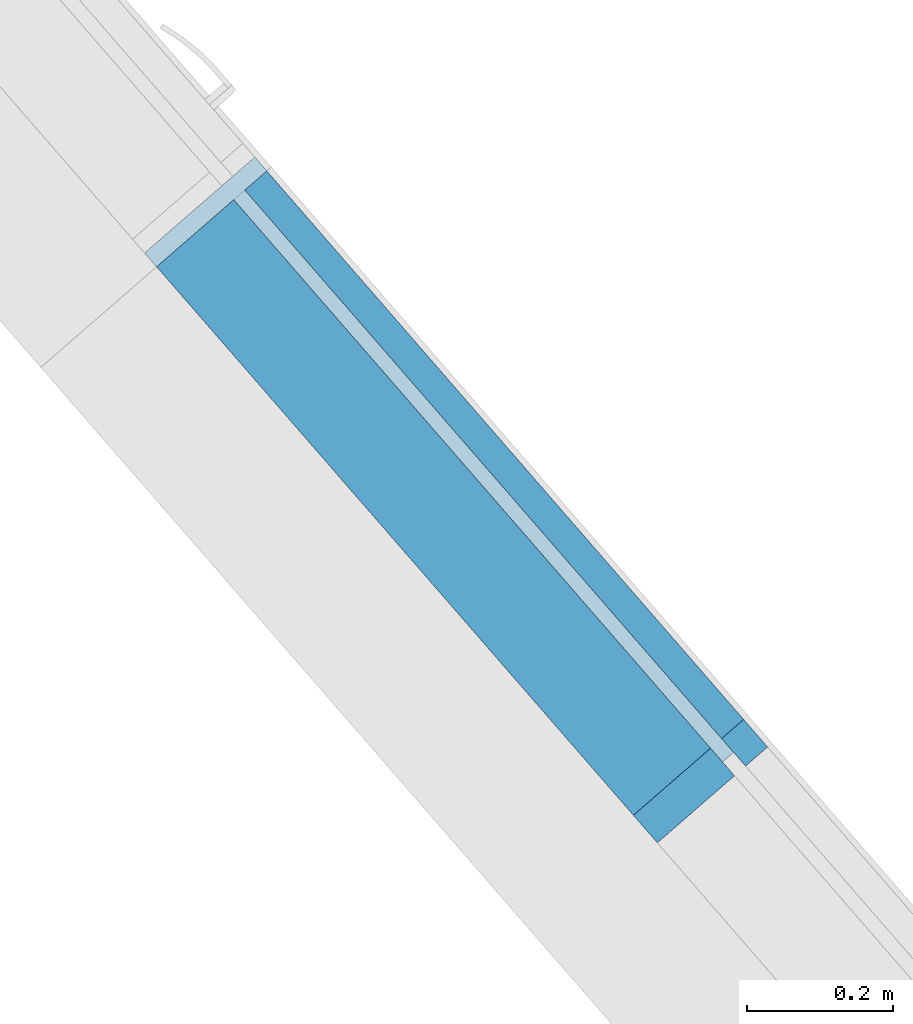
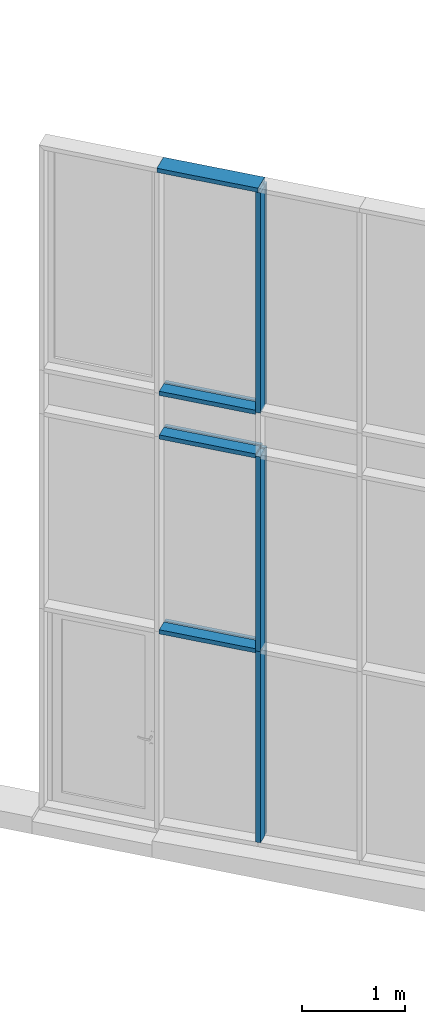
# One storey, part 58 of 390: 7 discrete accessories, 1 element without a shape of its own.
"""IFC2X3 building model written with IfcOpenShell, lengths in millimetres."""

from ifc_helpers import new_model, entity, si_unit, converted_unit, derived_unit, money_unit, direction, frame, origin_with_axes, place, context, subcontext, project, spatial, polyline, outline, extrude, clip, halfspace, material, material_list, type_object, element, aggregate, save


model = new_model("IFC2X3")

# Units and contexts
model_context = context("Model", 3, precision=1e-05, world=origin_with_axes(), true_north=direction((0.0, 1.0)))
body_context = subcontext(model_context, "Body", "Model", "MODEL_VIEW")
ifc_project = project(units=[si_unit("LENGTHUNIT", "METRE", prefix="MILLI"), si_unit("AREAUNIT", "SQUARE_METRE"), si_unit("VOLUMEUNIT", "CUBIC_METRE"), converted_unit("PLANEANGLEUNIT", "DEGREE", entity("IfcPlaneAngleMeasure", 0.0174532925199), si_unit("PLANEANGLEUNIT", "RADIAN"), dimensions=[0, 0, 0, 0, 0, 0, 0]), si_unit("SOLIDANGLEUNIT", "STERADIAN"), money_unit("EUR"), converted_unit("TIMEUNIT", "Year", entity("IfcTimeMeasure", 31556926.0), si_unit("TIMEUNIT", "SECOND"), dimensions=[0, 0, 1, 0, 0, 0, 0]), si_unit("MASSUNIT", "GRAM", prefix="KILO"), si_unit("THERMODYNAMICTEMPERATUREUNIT", "DEGREE_CELSIUS"), si_unit("LUMINOUSINTENSITYUNIT", "LUMEN"), si_unit("ENERGYUNIT", "JOULE", prefix="MEGA"), derived_unit("THERMALCONDUCTANCEUNIT", [(si_unit("POWERUNIT", "WATT"), 1), (si_unit("LENGTHUNIT", "METRE"), -1), (si_unit("THERMODYNAMICTEMPERATUREUNIT", "KELVIN"), -1)]), derived_unit("SPECIFICHEATCAPACITYUNIT", [(si_unit("ENERGYUNIT", "JOULE"), 1), (si_unit("MASSUNIT", "GRAM", prefix="KILO"), -1), (si_unit("THERMODYNAMICTEMPERATUREUNIT", "KELVIN"), -1)]), derived_unit("MASSDENSITYUNIT", [(si_unit("MASSUNIT", "GRAM", prefix="KILO"), 1), (si_unit("VOLUMEUNIT", "CUBIC_METRE"), -1)])], contexts=[model_context])

# Site, building, storey
site_placement = place(None, origin_with_axes())
site = spatial("IfcSite", under=ifc_project, at=site_placement, Name="Site", CompositionType="ELEMENT")
building_placement = place(site_placement, origin_with_axes())
building = spatial("IfcBuilding", under=site, at=building_placement, Name="Building", CompositionType="ELEMENT")
storey_placement = place(building_placement, origin_with_axes())
storey = spatial("IfcBuildingStorey", under=building, at=storey_placement, Name="1 korrus", CompositionType="ELEMENT", Elevation=0.0)

# Curtain wall, discrete accessories
curtain_wall_type = type_object("IfcCurtainWallType", Name="KLF-17", PredefinedType="NOTDEFINED")
curtain_wall_placement = place(storey_placement, frame((175630.823927, 104534.758561, -0.000216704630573), z_axis=(0.0, 0.0, 1.0), x_axis=(1.0, 0.0, 0.0)))
curtain_wall = element("IfcCurtainWall", 1, at=curtain_wall_placement, inside=storey, type_object=curtain_wall_type, Name="Klaasfassaad")
ifc_material = material(Name="Aluminium MUST")
ifc_material_list = material_list([ifc_material, ifc_material])
discrete_accessory_type = type_object("IfcDiscreteAccessoryType", Name="50 x 200")
discrete_accessory_1_placement = place(curtain_wall_placement, frame((-6845.97596751, 7875.39446963, 5240.0002167), z_axis=(0.0, 0.0, 1.0), x_axis=(-0.65605902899, 0.754709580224, 0.0)))
discrete_accessory_1 = element("IfcDiscreteAccessory", 2, at=discrete_accessory_1_placement, type_object=discrete_accessory_type, material=ifc_material_list, Name="KLF-17 profiil", context=body_context, shape_type="SweptSolid", body=[
    extrude(outline(polyline([(-129.607912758, -79.5411148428), (-96.8049613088, -117.276593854), (8.8543799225, -25.4283297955), (-23.948571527, 12.3071492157), (-129.607912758, -79.5411148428)])), frame((0.0, 0.0, 0.0), z_axis=(0.0, 0.0, 1.0), x_axis=(-0.65605902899, -0.754709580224, 0.0)), (0.0, 0.0, 1.0), 2625.00639082),
    extrude(outline(polyline([(54.1369547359, 13.9352119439), (21.3340032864, 51.670690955), (-8.8543799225, 25.4283297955), (23.948571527, -12.3071492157), (54.1369547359, 13.9352119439)])), frame((0.0, 0.0, 0.0), z_axis=(0.0, 0.0, 1.0), x_axis=(-0.65605902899, -0.754709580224, 0.0)), (0.0, 0.0, 1.0), 2625.00639082),
])
discrete_accessory_2_placement = place(curtain_wall_placement, frame((-7531.5576528, 8664.06598097, 7915.00660752), z_axis=(0.65605902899, -0.754709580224, 0.0), x_axis=(0.0, 0.0, 1.0)))
discrete_accessory_2 = element("IfcDiscreteAccessory", 3, at=discrete_accessory_2_placement, type_object=discrete_accessory_type, Name="KLF-17 profiil", context=body_context, shape_type="SweptSolid", body=[
    extrude(outline(polyline([(9.99999999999, 25.0), (-9.99999999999, 25.0), (-9.99999999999, 0.0), (9.99999999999, 0.0), (9.99999999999, 25.0)])), frame((0.0, 0.0, 0.0), z_axis=(0.0, 0.0, 1.0), x_axis=(0.0, 1.0, 0.0)), (0.0, 0.0, 1.0), 1045.0),
    extrude(outline(polyline([(150.0, 50.0), (9.99999999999, 50.0), (9.99999999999, 0.0), (150.0, 0.0), (150.0, 50.0)])), frame((0.0, 0.0, 0.0), z_axis=(0.0, 0.0, 1.0), x_axis=(0.0, 1.0, 0.0)), (0.0, 0.0, 1.0), 1045.0),
    extrude(outline(polyline([(-50.0, 0.0), (-9.99999999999, 0.0), (-9.99999999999, 50.0), (-50.0, 50.0), (-50.0, 0.0)])), frame((0.0, 0.0, 0.0), z_axis=(0.0, 0.0, 1.0), x_axis=(0.0, 1.0, 0.0)), (0.0, 0.0, 1.0), 1045.0),
])
discrete_accessory_3_placement = place(curtain_wall_placement, frame((-7531.5576528, 8664.06598097, 5240.0002167), z_axis=(0.65605902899, -0.754709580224, 0.0), x_axis=(0.0, 0.0, 1.0)))
discrete_accessory_3 = element("IfcDiscreteAccessory", 4, at=discrete_accessory_3_placement, type_object=discrete_accessory_type, material=ifc_material_list, Name="KLF-17 profiil", context=body_context, shape_type="SweptSolid", body=[
    extrude(outline(polyline([(150.0, -25.0), (150.0, 25.0), (9.99999999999, 25.0), (9.99999999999, -25.0), (150.0, -25.0)])), frame((0.0, 0.0, 25.0), z_axis=(0.0, 0.0, 1.0), x_axis=(0.0, 1.0, 0.0)), (0.0, 0.0, 1.0), 995.0),
    extrude(outline(polyline([(-50.0, 25.0), (-50.0, -25.0), (-9.99999999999, -25.0), (-9.99999999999, 25.0), (-50.0, 25.0)])), frame((0.0, 0.0, 25.0), z_axis=(0.0, 0.0, 1.0), x_axis=(0.0, 1.0, 0.0)), (0.0, 0.0, 1.0), 995.0),
])
discrete_accessory_4_placement = place(curtain_wall_placement, frame((-6845.97596751, 7875.39446963, 74.9719742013), z_axis=(0.0, 0.0, 1.0), x_axis=(-0.65605902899, 0.754709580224, 0.0)))
discrete_accessory_4 = element("IfcDiscreteAccessory", 5, at=discrete_accessory_4_placement, type_object=discrete_accessory_type, material=ifc_material_list, Name="KLF-17 profiil", context=body_context, shape_type="Clipping", body=[
    clip(extrude(outline(polyline([(-129.607912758, -79.5411148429), (-96.8049613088, -117.276593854), (8.8543799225, -25.4283297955), (-23.948571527, 12.3071492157), (-129.607912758, -79.5411148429)])), frame((0.0, 0.0, 49.4301592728), z_axis=(0.0, 0.0, 1.0), x_axis=(-0.65605902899, -0.754709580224, 0.0)), (0.0, 0.0, 1.0), 2275.59808323), halfspace(frame((1.16659372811, 0.0, 49.9863887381), z_axis=(0.0233318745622, 0.0, 0.999727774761), x_axis=(0.0, -1.0, 0.0)), True)),
    clip(extrude(outline(polyline([(54.1369547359, 13.9352119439), (21.3340032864, 51.6706909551), (-8.8543799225, 25.4283297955), (23.948571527, -12.3071492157), (54.1369547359, 13.9352119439)])), frame((0.0, 0.0, 49.4301592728), z_axis=(0.0, 0.0, 1.0), x_axis=(-0.65605902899, -0.754709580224, 0.0)), (0.0, 0.0, 1.0), 2275.59808323), halfspace(frame((1.16659372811, 0.0, 49.9863887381), z_axis=(0.0233318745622, 0.0, 0.999727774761), x_axis=(0.0, -1.0, 0.0)), True)),
])
discrete_accessory_5_placement = place(curtain_wall_placement, frame((-6845.97596751, 7875.39446963, 2400.0002167), z_axis=(0.0, 0.0, 1.0), x_axis=(-0.65605902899, 0.754709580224, 0.0)))
discrete_accessory_5 = element("IfcDiscreteAccessory", 6, at=discrete_accessory_5_placement, type_object=discrete_accessory_type, material=ifc_material_list, Name="KLF-17 profiil", context=body_context, shape_type="SweptSolid", body=[
    extrude(outline(polyline([(-129.607912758, -79.5411148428), (-96.8049613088, -117.276593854), (8.8543799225, -25.4283297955), (-23.948571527, 12.3071492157), (-129.607912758, -79.5411148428)])), frame((0.0, 0.0, 0.0), z_axis=(0.0, 0.0, 1.0), x_axis=(-0.65605902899, -0.754709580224, 0.0)), (0.0, 0.0, 1.0), 2320.0),
    extrude(outline(polyline([(54.1369547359, 13.9352119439), (21.3340032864, 51.6706909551), (-8.8543799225, 25.4283297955), (23.948571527, -12.3071492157), (54.1369547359, 13.9352119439)])), frame((0.0, 0.0, 0.0), z_axis=(0.0, 0.0, 1.0), x_axis=(-0.65605902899, -0.754709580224, 0.0)), (0.0, 0.0, 1.0), 2320.0),
])
discrete_accessory_6_placement = place(curtain_wall_placement, frame((-7531.5576528, 8664.06598097, 4720.0002167), z_axis=(0.65605902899, -0.754709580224, 0.0), x_axis=(0.0, 0.0, 1.0)))
discrete_accessory_6 = element("IfcDiscreteAccessory", 7, at=discrete_accessory_6_placement, type_object=discrete_accessory_type, material=ifc_material_list, Name="KLF-17 profiil", context=body_context, shape_type="SweptSolid", body=[
    extrude(outline(polyline([(150.0, -25.0), (150.0, 25.0), (9.99999999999, 25.0), (9.99999999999, -25.0), (150.0, -25.0)])), frame((0.0, 0.0, 25.0), z_axis=(0.0, 0.0, 1.0), x_axis=(0.0, 1.0, 0.0)), (0.0, 0.0, 1.0), 995.0),
    extrude(outline(polyline([(-50.0, 25.0), (-50.0, -25.0), (-9.99999999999, -25.0), (-9.99999999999, 25.0), (-50.0, 25.0)])), frame((0.0, 0.0, 25.0), z_axis=(0.0, 0.0, 1.0), x_axis=(0.0, 1.0, 0.0)), (0.0, 0.0, 1.0), 995.0),
])
discrete_accessory_7_placement = place(curtain_wall_placement, frame((-7531.5576528, 8664.06598097, 2400.0002167), z_axis=(0.65605902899, -0.754709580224, 0.0), x_axis=(0.0, 0.0, 1.0)))
discrete_accessory_7 = element("IfcDiscreteAccessory", 8, at=discrete_accessory_7_placement, type_object=discrete_accessory_type, material=ifc_material_list, Name="KLF-17 profiil", context=body_context, shape_type="SweptSolid", body=[
    extrude(outline(polyline([(150.0, -25.0), (150.0, 25.0), (9.99999999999, 25.0), (9.99999999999, -25.0), (150.0, -25.0)])), frame((0.0, 0.0, 25.0), z_axis=(0.0, 0.0, 1.0), x_axis=(0.0, 1.0, 0.0)), (0.0, 0.0, 1.0), 995.0),
    extrude(outline(polyline([(-50.0, 25.0), (-50.0, -25.0), (-9.99999999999, -25.0), (-9.99999999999, 25.0), (-50.0, 25.0)])), frame((0.0, 0.0, 25.0), z_axis=(0.0, 0.0, 1.0), x_axis=(0.0, 1.0, 0.0)), (0.0, 0.0, 1.0), 995.0),
])
aggregate(curtain_wall, [discrete_accessory_1, discrete_accessory_2, discrete_accessory_3, discrete_accessory_4, discrete_accessory_5, discrete_accessory_6, discrete_accessory_7])

save(model, "model.ifc")
